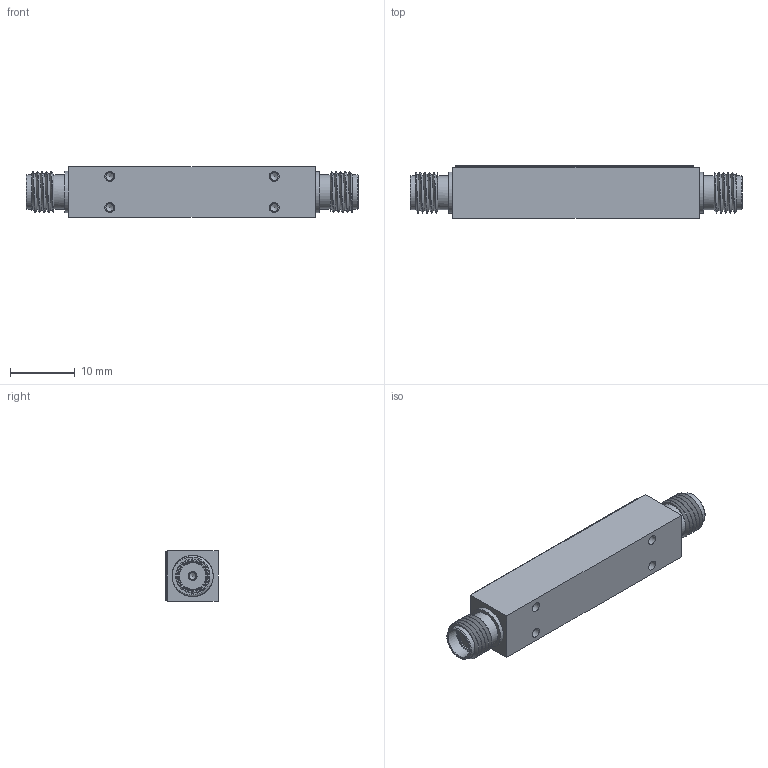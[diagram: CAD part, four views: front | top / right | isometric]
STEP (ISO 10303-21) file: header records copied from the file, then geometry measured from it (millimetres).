
FILE_DESCRIPTION (( 'STEP AP214' ), '1' );
FILE_NAME ('8BP1750-500-3A-SFF 3D MODEL.STEP', '2025-04-11T13:35:48', ( '' ), ( '' ), 'SwSTEP 2.0', 'SolidWorks 2024', '' );
FILE_SCHEMA (( 'AUTOMOTIVE_DESIGN' ));
Length unit declared in the file: inch
Products named in the file (1): 8BP1750-500-3A-SFF 3D MODEL
Bounding box: 51.31 x 8.06 x 7.87 mm (x, y, z)
Volume: 2798.6 mm3; surface area: 2673.7 mm2
Topology: 4 solids, 6 shells, 983 faces, 3589 edges, 2747 vertices
Faces by surface type: cylinder 416, torus 402, plane 153, cone 8, bspline 4
Full cylindrical faces by diameter (mm): 1.016 x2, 1.191 x4, 1.27 x4, 1.524 x4, 4.191 x2, 4.597 x2, 5.283 x6, 6.35 x2
Entity records: 70541 total; most frequent: CARTESIAN_POINT 27995, ORIENTED_EDGE 7054, DIRECTION 5496, EDGE_CURVE 3527, VERTEX_POINT 2737, AXIS2_PLACEMENT_3D 2226, CIRCLE 1246, B_SPLINE_CURVE_WITH_KNOTS 1231
